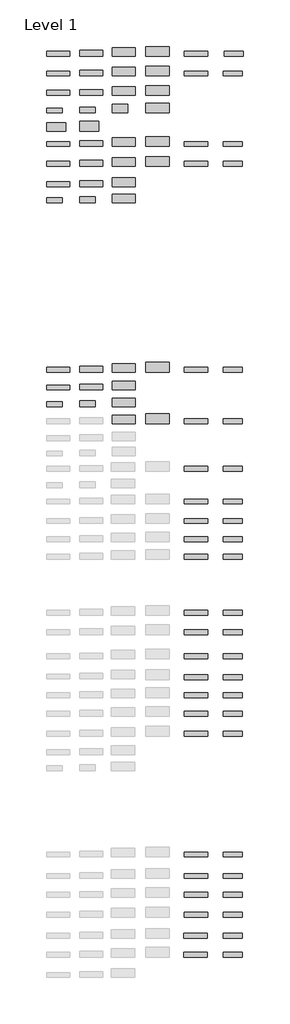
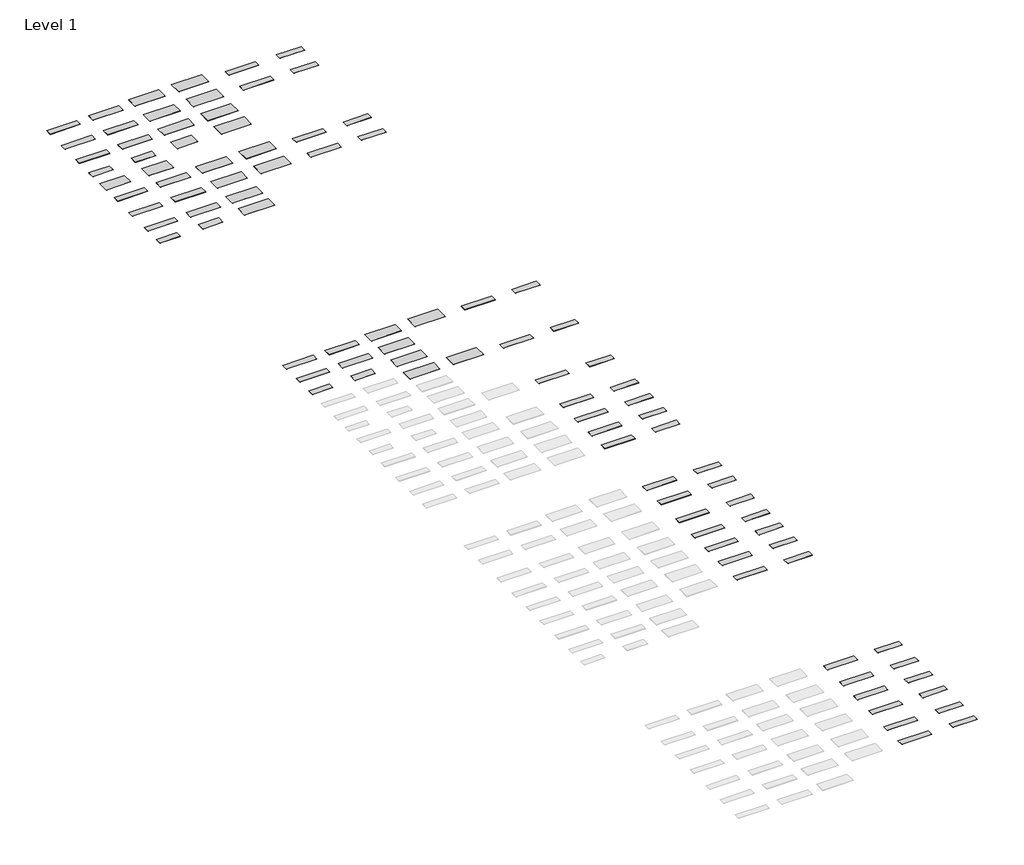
# One storey, part 2 of 2: 92 proxies.
"""IFC4 building model written with IfcOpenShell, lengths in millimetres."""

from ifc_helpers import new_model, si_unit, origin, place, context, project, spatial, transform, mapped, element, save
from components import s001_satin_white_12mm_760x3680mm_7f56e2ab, s001_satin_white_12mm_910x3680mm_ebb0e17e, s001_satin_white_12mm_1350x3680mm_c2ce3097, s001_satin_white_12mm_1520x3680mm_bc4f7f2a, s001_satin_white_20mm_760x3000mm_a6e596b7, s001_satin_white_6mm_760x2490mm_c0a7b58a, s001_satin_white_6mm_910x2490mm_29e5721c, s728_alpine_white_4mm_1350x3000mm_ca04285e, s728_alpine_white_4mm_1520x3000mm_6b61dcad, s728_alpine_white_6mm_1350x2490mm_099efddb

model = new_model("IFC4")

# Units and contexts
model_context = context("Model", 3, world=origin())
ifc_project = project(units=[si_unit("LENGTHUNIT", "METRE", prefix="MILLI")], contexts=[model_context])

# Site, building, storey
site = spatial("IfcSite", under=ifc_project)
building = spatial("IfcBuilding", under=site)
storey = spatial("IfcBuildingStorey", under=building, Name="Level 1", Elevation=0.0)

# Proxies
placement = place(None, origin())
s001_satin_white_12mm_760x3680mm_shape = s001_satin_white_12mm_760x3680mm_7f56e2ab(model_context)
element("IfcBuildingElementProxy", 1, Name="Kitchen_Counter-Tops_Indoor-Material_HI-MACS_Solids : S006_Artic-White_12mm_760x3680mm", ObjectType="Kitchen_Counter-Tops_Indoor-Material_HI-MACS_Solids : S006_Artic-White_12mm_760x3680mm", at=placement, inside=storey, context=model_context, shape_type="MappedRepresentation", body=[
    mapped(s001_satin_white_12mm_760x3680mm_shape, transform((-20811.8590579, -8980.8307829, 0.0), x_axis=(1.0, 0.0, 0.0), y_axis=(0.0, 1.0, 0.0), z_axis=(0.0, 0.0, 1.0))),
])
s001_satin_white_12mm_910x3680mm_shape = s001_satin_white_12mm_910x3680mm_ebb0e17e(model_context)
element("IfcBuildingElementProxy", 2, Name="Kitchen_Counter-Tops_Indoor-Material_HI-MACS_Solids : S006_Artic-White_12mm_910x3680mm", ObjectType="Kitchen_Counter-Tops_Indoor-Material_HI-MACS_Solids : S006_Artic-White_12mm_910x3680mm", at=placement, inside=storey, context=model_context, shape_type="MappedRepresentation", body=[
    mapped(s001_satin_white_12mm_910x3680mm_shape, transform((-15611.8590579, -8905.8307829, 0.0), x_axis=(1.0, 0.0, 0.0), y_axis=(0.0, 1.0, 0.0), z_axis=(0.0, 0.0, 1.0))),
])
s001_satin_white_12mm_1350x3680mm_shape = s001_satin_white_12mm_1350x3680mm_c2ce3097(model_context)
element("IfcBuildingElementProxy", 3, Name="Kitchen_Counter-Tops_Indoor-Material_HI-MACS_Solids : S006_Artic-White_12mm_1350x3680mm", ObjectType="Kitchen_Counter-Tops_Indoor-Material_HI-MACS_Solids : S006_Artic-White_12mm_1350x3680mm", at=placement, inside=storey, context=model_context, shape_type="MappedRepresentation", body=[
    mapped(s001_satin_white_12mm_1350x3680mm_shape, transform((-10511.8590579, -8685.8307829, 0.0), x_axis=(1.0, 0.0, 0.0), y_axis=(0.0, 1.0, 0.0), z_axis=(0.0, 0.0, 1.0))),
])
s001_satin_white_12mm_1520x3680mm_shape = s001_satin_white_12mm_1520x3680mm_bc4f7f2a(model_context)
element("IfcBuildingElementProxy", 4, Name="Kitchen_Counter-Tops_Indoor-Material_HI-MACS_Solids : S006_Artic-White_12mm_1520x3680mm", ObjectType="Kitchen_Counter-Tops_Indoor-Material_HI-MACS_Solids : S006_Artic-White_12mm_1520x3680mm", at=placement, inside=storey, context=model_context, shape_type="MappedRepresentation", body=[
    mapped(s001_satin_white_12mm_1520x3680mm_shape, transform((-5211.8590579, -8600.8307829, 0.0), x_axis=(1.0, 0.0, 0.0), y_axis=(0.0, 1.0, 0.0), z_axis=(0.0, 0.0, 1.0))),
])
element("IfcBuildingElementProxy", 5, Name="Kitchen_Counter-Tops_Indoor-Material_HI-MACS_Solids : S006_Artic-White_20mm_760x3680mm", ObjectType="Kitchen_Counter-Tops_Indoor-Material_HI-MACS_Solids : S006_Artic-White_20mm_760x3680mm", at=placement, inside=storey, context=model_context, shape_type="MappedRepresentation", body=[
    mapped(s001_satin_white_12mm_760x3680mm_shape, transform((868.1409421, -8980.8307829, 0.0), x_axis=(1.0, 0.0, 0.0), y_axis=(0.0, 1.0, 0.0), z_axis=(0.0, 0.0, 1.0))),
])
s001_satin_white_20mm_760x3000mm_shape = s001_satin_white_20mm_760x3000mm_a6e596b7(model_context)
element("IfcBuildingElementProxy", 6, Name="Kitchen_Counter-Tops_Indoor-Material_HI-MACS_Solids : S006_Artic-White_20mm_760x3000mm", ObjectType="Kitchen_Counter-Tops_Indoor-Material_HI-MACS_Solids : S006_Artic-White_20mm_760x3000mm", at=placement, inside=storey, context=model_context, shape_type="MappedRepresentation", body=[
    mapped(s001_satin_white_20mm_760x3000mm_shape, transform((6668.1409421, -8980.8307829, 0.0), x_axis=(1.0, 0.0, 0.0), y_axis=(0.0, 1.0, 0.0), z_axis=(0.0, 0.0, 1.0))),
])
element("IfcBuildingElementProxy", 7, Name="Kitchen_Counter-Tops_Indoor-Material_HI-MACS_Solids : S006_Artic-White_9mm_760x3680mm", ObjectType="Kitchen_Counter-Tops_Indoor-Material_HI-MACS_Solids : S006_Artic-White_9mm_760x3680mm", at=placement, inside=storey, context=model_context, shape_type="MappedRepresentation", body=[
    mapped(s001_satin_white_12mm_760x3680mm_shape, transform((-20811.8590579, -12180.8307829, 0.0), x_axis=(1.0, 0.0, 0.0), y_axis=(0.0, 1.0, 0.0), z_axis=(0.0, 0.0, 1.0))),
])
element("IfcBuildingElementProxy", 8, Name="Kitchen_Counter-Tops_Indoor-Material_HI-MACS_Solids : S006_Artic-White_9mm_910x3680mm", ObjectType="Kitchen_Counter-Tops_Indoor-Material_HI-MACS_Solids : S006_Artic-White_9mm_910x3680mm", at=placement, inside=storey, context=model_context, shape_type="MappedRepresentation", body=[
    mapped(s001_satin_white_12mm_910x3680mm_shape, transform((-15611.8590579, -12105.8307829, 0.0), x_axis=(1.0, 0.0, 0.0), y_axis=(0.0, 1.0, 0.0), z_axis=(0.0, 0.0, 1.0))),
])
element("IfcBuildingElementProxy", 9, Name="Kitchen_Counter-Tops_Indoor-Material_HI-MACS_Solids : S006_Artic-White_9mm_1350x3680mm", ObjectType="Kitchen_Counter-Tops_Indoor-Material_HI-MACS_Solids : S006_Artic-White_9mm_1350x3680mm", at=placement, inside=storey, context=model_context, shape_type="MappedRepresentation", body=[
    mapped(s001_satin_white_12mm_1350x3680mm_shape, transform((-10511.8590579, -11885.8307829, 0.0), x_axis=(1.0, 0.0, 0.0), y_axis=(0.0, 1.0, 0.0), z_axis=(0.0, 0.0, 1.0))),
])
s001_satin_white_6mm_760x2490mm_shape = s001_satin_white_6mm_760x2490mm_c0a7b58a(model_context)
element("IfcBuildingElementProxy", 10, Name="Kitchen_Counter-Tops_Indoor-Material_HI-MACS_Solids : S006_Artic-White_6mm_760x2490mm", ObjectType="Kitchen_Counter-Tops_Indoor-Material_HI-MACS_Solids : S006_Artic-White_6mm_760x2490mm", at=placement, inside=storey, context=model_context, shape_type="MappedRepresentation", body=[
    mapped(s001_satin_white_6mm_760x2490mm_shape, transform((-21406.8590579, -14720.8307829, 0.0), x_axis=(1.0, 0.0, 0.0), y_axis=(0.0, 1.0, 0.0), z_axis=(0.0, 0.0, 1.0))),
])
s001_satin_white_6mm_910x2490mm_shape = s001_satin_white_6mm_910x2490mm_29e5721c(model_context)
element("IfcBuildingElementProxy", 11, Name="Kitchen_Counter-Tops_Indoor-Material_HI-MACS_Solids : S006_Artic-White_6mm_910x2490mm", ObjectType="Kitchen_Counter-Tops_Indoor-Material_HI-MACS_Solids : S006_Artic-White_6mm_910x2490mm", at=placement, inside=storey, context=model_context, shape_type="MappedRepresentation", body=[
    mapped(s001_satin_white_6mm_910x2490mm_shape, transform((-16206.8590579, -14645.8307829, 0.0), x_axis=(1.0, 0.0, 0.0), y_axis=(0.0, 1.0, 0.0), z_axis=(0.0, 0.0, 1.0))),
])
element("IfcBuildingElementProxy", 12, Name="Kitchen_Counter-Tops_Indoor-Material_HI-MACS_Solids : S006_Artic-White_6mm_1350x3680mm", ObjectType="Kitchen_Counter-Tops_Indoor-Material_HI-MACS_Solids : S006_Artic-White_6mm_1350x3680mm", at=placement, inside=storey, context=model_context, shape_type="MappedRepresentation", body=[
    mapped(s001_satin_white_12mm_1350x3680mm_shape, transform((-10511.8590579, -14425.8307829, 0.0), x_axis=(1.0, 0.0, 0.0), y_axis=(0.0, 1.0, 0.0), z_axis=(0.0, 0.0, 1.0))),
])
element("IfcBuildingElementProxy", 13, Name="Kitchen_Counter-Tops_Indoor-Material_HI-MACS_Solids : S102_Babylon-Beige_20mm_760x3680mm", ObjectType="Kitchen_Counter-Tops_Indoor-Material_HI-MACS_Solids : S102_Babylon-Beige_20mm_760x3680mm", at=placement, inside=storey, context=model_context, shape_type="MappedRepresentation", body=[
    mapped(s001_satin_white_12mm_760x3680mm_shape, transform((868.1409421, -68063.8627083, 0.0), x_axis=(1.0, 0.0, 0.0), y_axis=(0.0, 1.0, 0.0), z_axis=(0.0, 0.0, 1.0))),
])
element("IfcBuildingElementProxy", 14, Name="Kitchen_Counter-Tops_Indoor-Material_HI-MACS_Solids : S102_Babylon-Beige_20mm_760x3000mm", ObjectType="Kitchen_Counter-Tops_Indoor-Material_HI-MACS_Solids : S102_Babylon-Beige_20mm_760x3000mm", at=placement, inside=storey, context=model_context, shape_type="MappedRepresentation", body=[
    mapped(s001_satin_white_20mm_760x3000mm_shape, transform((6668.1409421, -68063.8627083, 0.0), x_axis=(1.0, 0.0, 0.0), y_axis=(0.0, 1.0, 0.0), z_axis=(0.0, 0.0, 1.0))),
])
element("IfcBuildingElementProxy", 15, Name="Kitchen_Counter-Tops_Indoor-Material_HI-MACS_Solids : S108_Marta-Grey_20mm_760x3680mm", ObjectType="Kitchen_Counter-Tops_Indoor-Material_HI-MACS_Solids : S108_Marta-Grey_20mm_760x3680mm", at=placement, inside=storey, context=model_context, shape_type="MappedRepresentation", body=[
    mapped(s001_satin_white_12mm_760x3680mm_shape, transform((868.1409421, -79611.6390607, 0.0), x_axis=(1.0, 0.0, 0.0), y_axis=(0.0, 1.0, 0.0), z_axis=(0.0, 0.0, 1.0))),
])
element("IfcBuildingElementProxy", 16, Name="Kitchen_Counter-Tops_Indoor-Material_HI-MACS_Solids : S108_Marta-Grey_20mm_760x3000mm", ObjectType="Kitchen_Counter-Tops_Indoor-Material_HI-MACS_Solids : S108_Marta-Grey_20mm_760x3000mm", at=placement, inside=storey, context=model_context, shape_type="MappedRepresentation", body=[
    mapped(s001_satin_white_20mm_760x3000mm_shape, transform((6668.1409421, -79611.6390607, 0.0), x_axis=(1.0, 0.0, 0.0), y_axis=(0.0, 1.0, 0.0), z_axis=(0.0, 0.0, 1.0))),
])
element("IfcBuildingElementProxy", 17, Name="Kitchen_Counter-Tops_Indoor-Material_HI-MACS_Solids : S025_Fiery-Red_20mm_760x3680mm", ObjectType="Kitchen_Counter-Tops_Indoor-Material_HI-MACS_Solids : S025_Fiery-Red_20mm_760x3680mm", at=placement, inside=storey, context=model_context, shape_type="MappedRepresentation", body=[
    mapped(s001_satin_white_12mm_760x3680mm_shape, transform((868.1409421, -92576.3180558, 0.0), x_axis=(1.0, 0.0, 0.0), y_axis=(0.0, 1.0, 0.0), z_axis=(0.0, 0.0, 1.0))),
])
element("IfcBuildingElementProxy", 18, Name="Kitchen_Counter-Tops_Indoor-Material_HI-MACS_Solids : S025_Fiery-Red_20mm_760x3000mm", ObjectType="Kitchen_Counter-Tops_Indoor-Material_HI-MACS_Solids : S025_Fiery-Red_20mm_760x3000mm", at=placement, inside=storey, context=model_context, shape_type="MappedRepresentation", body=[
    mapped(s001_satin_white_20mm_760x3000mm_shape, transform((6668.1409421, -92576.3180558, 0.0), x_axis=(1.0, 0.0, 0.0), y_axis=(0.0, 1.0, 0.0), z_axis=(0.0, 0.0, 1.0))),
])
element("IfcBuildingElementProxy", 19, Name="Kitchen_Counter-Tops_Indoor-Material_HI-MACS_Solids : S115_Deep-Indigo_20mm_760x3680mm", ObjectType="Kitchen_Counter-Tops_Indoor-Material_HI-MACS_Solids : S115_Deep-Indigo_20mm_760x3680mm", at=placement, inside=storey, context=model_context, shape_type="MappedRepresentation", body=[
    mapped(s001_satin_white_12mm_760x3680mm_shape, transform((868.1409421, -123994.5445632, 0.0), x_axis=(1.0, 0.0, 0.0), y_axis=(0.0, 1.0, 0.0), z_axis=(0.0, 0.0, 1.0))),
])
element("IfcBuildingElementProxy", 20, Name="Kitchen_Counter-Tops_Indoor-Material_HI-MACS_Solids : S115_Deep-Indigo_20mm_760x3000mm", ObjectType="Kitchen_Counter-Tops_Indoor-Material_HI-MACS_Solids : S115_Deep-Indigo_20mm_760x3000mm", at=placement, inside=storey, context=model_context, shape_type="MappedRepresentation", body=[
    mapped(s001_satin_white_20mm_760x3000mm_shape, transform((6668.1409421, -123994.5445632, 0.0), x_axis=(1.0, 0.0, 0.0), y_axis=(0.0, 1.0, 0.0), z_axis=(0.0, 0.0, 1.0))),
])
element("IfcBuildingElementProxy", 21, Name="Kitchen_Counter-Tops_Indoor-Material_HI-MACS_Solids : S001_Satin-White_12mm_1350x3680mm", ObjectType="Kitchen_Counter-Tops_Indoor-Material_HI-MACS_Solids : S001_Satin-White_12mm_1350x3680mm", at=placement, inside=storey, context=model_context, shape_type="MappedRepresentation", body=[
    mapped(s001_satin_white_12mm_1350x3680mm_shape, transform((-10511.8590579, -49177.1888204, 0.0), x_axis=(1.0, 0.0, 0.0), y_axis=(0.0, 1.0, 0.0), z_axis=(0.0, 0.0, 1.0))),
])
element("IfcBuildingElementProxy", 22, Name="Kitchen_Counter-Tops_Indoor-Material_HI-MACS_Solids : S001_Satin-White_12mm_1520x3680mm", ObjectType="Kitchen_Counter-Tops_Indoor-Material_HI-MACS_Solids : S001_Satin-White_12mm_1520x3680mm", at=placement, inside=storey, context=model_context, shape_type="MappedRepresentation", body=[
    mapped(s001_satin_white_12mm_1520x3680mm_shape, transform((-5211.8590579, -49092.1888204, 0.0), x_axis=(1.0, 0.0, 0.0), y_axis=(0.0, 1.0, 0.0), z_axis=(0.0, 0.0, 1.0))),
])
element("IfcBuildingElementProxy", 23, Name="Kitchen_Counter-Tops_Indoor-Material_HI-MACS_Solids : S001_Satin-White_20mm_760x3000mm", ObjectType="Kitchen_Counter-Tops_Indoor-Material_HI-MACS_Solids : S001_Satin-White_20mm_760x3000mm", at=placement, inside=storey, context=model_context, shape_type="MappedRepresentation", body=[
    mapped(s001_satin_white_20mm_760x3000mm_shape, transform((6668.1409421, -49472.1888204, 0.0), x_axis=(1.0, 0.0, 0.0), y_axis=(0.0, 1.0, 0.0), z_axis=(0.0, 0.0, 1.0))),
])
element("IfcBuildingElementProxy", 24, Name="Kitchen_Counter-Tops_Indoor-Material_HI-MACS_Solids : S001_Satin-White_20mm_760x3680mm", ObjectType="Kitchen_Counter-Tops_Indoor-Material_HI-MACS_Solids : S001_Satin-White_20mm_760x3680mm", at=placement, inside=storey, context=model_context, shape_type="MappedRepresentation", body=[
    mapped(s001_satin_white_12mm_760x3680mm_shape, transform((868.1409421, -49472.1888204, 0.0), x_axis=(1.0, 0.0, 0.0), y_axis=(0.0, 1.0, 0.0), z_axis=(0.0, 0.0, 1.0))),
])
element("IfcBuildingElementProxy", 25, Name="Kitchen_Counter-Tops_Indoor-Material_HI-MACS_Solids : S002_Almond_20mm_760x3000mm", ObjectType="Kitchen_Counter-Tops_Indoor-Material_HI-MACS_Solids : S002_Almond_20mm_760x3000mm", at=placement, inside=storey, context=model_context, shape_type="MappedRepresentation", body=[
    mapped(s001_satin_white_20mm_760x3000mm_shape, transform((6668.1409421, -65172.1888204, 0.0), x_axis=(1.0, 0.0, 0.0), y_axis=(0.0, 1.0, 0.0), z_axis=(0.0, 0.0, 1.0))),
])
element("IfcBuildingElementProxy", 26, Name="Kitchen_Counter-Tops_Indoor-Material_HI-MACS_Solids : S002_Almond_20mm_760x3680mm", ObjectType="Kitchen_Counter-Tops_Indoor-Material_HI-MACS_Solids : S002_Almond_20mm_760x3680mm", at=placement, inside=storey, context=model_context, shape_type="MappedRepresentation", body=[
    mapped(s001_satin_white_12mm_760x3680mm_shape, transform((868.1409421, -65172.1888204, 0.0), x_axis=(1.0, 0.0, 0.0), y_axis=(0.0, 1.0, 0.0), z_axis=(0.0, 0.0, 1.0))),
])
element("IfcBuildingElementProxy", 27, Name="Kitchen_Counter-Tops_Indoor-Material_HI-MACS_Solids : S005_Grey_20mm_760x3000mm", ObjectType="Kitchen_Counter-Tops_Indoor-Material_HI-MACS_Solids : S005_Grey_20mm_760x3000mm", at=placement, inside=storey, context=model_context, shape_type="MappedRepresentation", body=[
    mapped(s001_satin_white_20mm_760x3000mm_shape, transform((6668.1409421, -98637.3328205, 0.0), x_axis=(1.0, 0.0, 0.0), y_axis=(0.0, 1.0, 0.0), z_axis=(0.0, 0.0, 1.0))),
])
element("IfcBuildingElementProxy", 28, Name="Kitchen_Counter-Tops_Indoor-Material_HI-MACS_Solids : S005_Grey_20mm_760x3680mm", ObjectType="Kitchen_Counter-Tops_Indoor-Material_HI-MACS_Solids : S005_Grey_20mm_760x3680mm", at=placement, inside=storey, context=model_context, shape_type="MappedRepresentation", body=[
    mapped(s001_satin_white_12mm_760x3680mm_shape, transform((868.1409421, -98637.3328205, 0.0), x_axis=(1.0, 0.0, 0.0), y_axis=(0.0, 1.0, 0.0), z_axis=(0.0, 0.0, 1.0))),
])
element("IfcBuildingElementProxy", 29, Name="Kitchen_Counter-Tops_Indoor-Material_HI-MACS_Solids : S009_Cream_20mm_760x3000mm", ObjectType="Kitchen_Counter-Tops_Indoor-Material_HI-MACS_Solids : S009_Cream_20mm_760x3000mm", at=placement, inside=storey, context=model_context, shape_type="MappedRepresentation", body=[
    mapped(s001_satin_white_20mm_760x3000mm_shape, transform((6668.1409421, -56979.5477152, 0.0), x_axis=(1.0, 0.0, 0.0), y_axis=(0.0, 1.0, 0.0), z_axis=(0.0, 0.0, 1.0))),
])
element("IfcBuildingElementProxy", 30, Name="Kitchen_Counter-Tops_Indoor-Material_HI-MACS_Solids : S009_Cream_20mm_760x3680mm", ObjectType="Kitchen_Counter-Tops_Indoor-Material_HI-MACS_Solids : S009_Cream_20mm_760x3680mm", at=placement, inside=storey, context=model_context, shape_type="MappedRepresentation", body=[
    mapped(s001_satin_white_12mm_760x3680mm_shape, transform((868.1409421, -56979.5477152, 0.0), x_axis=(1.0, 0.0, 0.0), y_axis=(0.0, 1.0, 0.0), z_axis=(0.0, 0.0, 1.0))),
])
element("IfcBuildingElementProxy", 31, Name="Kitchen_Counter-Tops_Indoor-Material_HI-MACS_Solids : S022_Black_20mm_760x3000mm", ObjectType="Kitchen_Counter-Tops_Indoor-Material_HI-MACS_Solids : S022_Black_20mm_760x3000mm", at=placement, inside=storey, context=model_context, shape_type="MappedRepresentation", body=[
    mapped(s001_satin_white_20mm_760x3000mm_shape, transform((6668.1409421, -133406.0645662, 0.0), x_axis=(1.0, 0.0, 0.0), y_axis=(0.0, 1.0, 0.0), z_axis=(0.0, 0.0, 1.0))),
])
element("IfcBuildingElementProxy", 32, Name="Kitchen_Counter-Tops_Indoor-Material_HI-MACS_Solids : S022_Black_20mm_760x3680mm", ObjectType="Kitchen_Counter-Tops_Indoor-Material_HI-MACS_Solids : S022_Black_20mm_760x3680mm", at=placement, inside=storey, context=model_context, shape_type="MappedRepresentation", body=[
    mapped(s001_satin_white_12mm_760x3680mm_shape, transform((788.1409421, -133406.0645662, 0.0), x_axis=(1.0, 0.0, 0.0), y_axis=(0.0, 1.0, 0.0), z_axis=(0.0, 0.0, 1.0))),
])
element("IfcBuildingElementProxy", 33, Name="Kitchen_Counter-Tops_Indoor-Material_HI-MACS_Solids : S026_Banana_20mm_760x3000mm", ObjectType="Kitchen_Counter-Tops_Indoor-Material_HI-MACS_Solids : S026_Banana_20mm_760x3000mm", at=placement, inside=storey, context=model_context, shape_type="MappedRepresentation", body=[
    mapped(s001_satin_white_20mm_760x3000mm_shape, transform((6668.1409421, -86478.1812251, 0.0), x_axis=(1.0, 0.0, 0.0), y_axis=(0.0, 1.0, 0.0), z_axis=(0.0, 0.0, 1.0))),
])
element("IfcBuildingElementProxy", 34, Name="Kitchen_Counter-Tops_Indoor-Material_HI-MACS_Solids : S026_Banana_20mm_760x3680mm", ObjectType="Kitchen_Counter-Tops_Indoor-Material_HI-MACS_Solids : S026_Banana_20mm_760x3680mm", at=placement, inside=storey, context=model_context, shape_type="MappedRepresentation", body=[
    mapped(s001_satin_white_12mm_760x3680mm_shape, transform((868.1409421, -86478.1812251, 0.0), x_axis=(1.0, 0.0, 0.0), y_axis=(0.0, 1.0, 0.0), z_axis=(0.0, 0.0, 1.0))),
])
element("IfcBuildingElementProxy", 35, Name="Kitchen_Counter-Tops_Indoor-Material_HI-MACS_Solids : S027_Orange_20mm_760x3000mm", ObjectType="Kitchen_Counter-Tops_Indoor-Material_HI-MACS_Solids : S027_Orange_20mm_760x3000mm", at=placement, inside=storey, context=model_context, shape_type="MappedRepresentation", body=[
    mapped(s001_satin_white_20mm_760x3000mm_shape, transform((6668.1409421, -89736.9760659, 0.0), x_axis=(1.0, 0.0, 0.0), y_axis=(0.0, 1.0, 0.0), z_axis=(0.0, 0.0, 1.0))),
])
element("IfcBuildingElementProxy", 36, Name="Kitchen_Counter-Tops_Indoor-Material_HI-MACS_Solids : S027_Orange_20mm_760x3680mm", ObjectType="Kitchen_Counter-Tops_Indoor-Material_HI-MACS_Solids : S027_Orange_20mm_760x3680mm", at=placement, inside=storey, context=model_context, shape_type="MappedRepresentation", body=[
    mapped(s001_satin_white_12mm_760x3680mm_shape, transform((868.1409421, -89736.9760659, 0.0), x_axis=(1.0, 0.0, 0.0), y_axis=(0.0, 1.0, 0.0), z_axis=(0.0, 0.0, 1.0))),
])
element("IfcBuildingElementProxy", 37, Name="Kitchen_Counter-Tops_Indoor-Material_HI-MACS_Solids : S029_Ivory-White_12mm_1350x3680mm", ObjectType="Kitchen_Counter-Tops_Indoor-Material_HI-MACS_Solids : S029_Ivory-White_12mm_1350x3680mm", at=placement, inside=storey, context=model_context, shape_type="MappedRepresentation", body=[
    mapped(s001_satin_white_12mm_1350x3680mm_shape, transform((-10511.8590579, -41081.1039936, 0.0), x_axis=(1.0, 0.0, 0.0), y_axis=(0.0, 1.0, 0.0), z_axis=(0.0, 0.0, 1.0))),
])
element("IfcBuildingElementProxy", 38, Name="Kitchen_Counter-Tops_Indoor-Material_HI-MACS_Solids : S029_Ivory-White_12mm_1520x3680mm", ObjectType="Kitchen_Counter-Tops_Indoor-Material_HI-MACS_Solids : S029_Ivory-White_12mm_1520x3680mm", at=placement, inside=storey, context=model_context, shape_type="MappedRepresentation", body=[
    mapped(s001_satin_white_12mm_1520x3680mm_shape, transform((-5211.8590579, -40996.1039936, 0.0), x_axis=(1.0, 0.0, 0.0), y_axis=(0.0, 1.0, 0.0), z_axis=(0.0, 0.0, 1.0))),
])
element("IfcBuildingElementProxy", 39, Name="Kitchen_Counter-Tops_Indoor-Material_HI-MACS_Solids : S029_Ivory-White_12mm_760x3680mm", ObjectType="Kitchen_Counter-Tops_Indoor-Material_HI-MACS_Solids : S029_Ivory-White_12mm_760x3680mm", at=placement, inside=storey, context=model_context, shape_type="MappedRepresentation", body=[
    mapped(s001_satin_white_12mm_760x3680mm_shape, transform((-20811.8590579, -41376.1039936, 0.0), x_axis=(1.0, 0.0, 0.0), y_axis=(0.0, 1.0, 0.0), z_axis=(0.0, 0.0, 1.0))),
])
element("IfcBuildingElementProxy", 40, Name="Kitchen_Counter-Tops_Indoor-Material_HI-MACS_Solids : S029_Ivory-White_12mm_910x3680mm", ObjectType="Kitchen_Counter-Tops_Indoor-Material_HI-MACS_Solids : S029_Ivory-White_12mm_910x3680mm", at=placement, inside=storey, context=model_context, shape_type="MappedRepresentation", body=[
    mapped(s001_satin_white_12mm_910x3680mm_shape, transform((-15611.8590579, -41301.1039936, 0.0), x_axis=(1.0, 0.0, 0.0), y_axis=(0.0, 1.0, 0.0), z_axis=(0.0, 0.0, 1.0))),
])
element("IfcBuildingElementProxy", 41, Name="Kitchen_Counter-Tops_Indoor-Material_HI-MACS_Solids : S029_Ivory-White_20mm_760x3000mm", ObjectType="Kitchen_Counter-Tops_Indoor-Material_HI-MACS_Solids : S029_Ivory-White_20mm_760x3000mm", at=placement, inside=storey, context=model_context, shape_type="MappedRepresentation", body=[
    mapped(s001_satin_white_20mm_760x3000mm_shape, transform((6668.1409421, -41376.1039936, 0.0), x_axis=(1.0, 0.0, 0.0), y_axis=(0.0, 1.0, 0.0), z_axis=(0.0, 0.0, 1.0))),
])
element("IfcBuildingElementProxy", 42, Name="Kitchen_Counter-Tops_Indoor-Material_HI-MACS_Solids : S029_Ivory-White_20mm_760x3680mm", ObjectType="Kitchen_Counter-Tops_Indoor-Material_HI-MACS_Solids : S029_Ivory-White_20mm_760x3680mm", at=placement, inside=storey, context=model_context, shape_type="MappedRepresentation", body=[
    mapped(s001_satin_white_12mm_760x3680mm_shape, transform((868.1409421, -41376.1039936, 0.0), x_axis=(1.0, 0.0, 0.0), y_axis=(0.0, 1.0, 0.0), z_axis=(0.0, 0.0, 1.0))),
])
element("IfcBuildingElementProxy", 43, Name="Kitchen_Counter-Tops_Indoor-Material_HI-MACS_Solids : S029_Ivory-White_6mm_1350x3680mm", ObjectType="Kitchen_Counter-Tops_Indoor-Material_HI-MACS_Solids : S029_Ivory-White_6mm_1350x3680mm", at=placement, inside=storey, context=model_context, shape_type="MappedRepresentation", body=[
    mapped(s001_satin_white_12mm_1350x3680mm_shape, transform((-10511.8590579, -46501.1039936, 0.0), x_axis=(1.0, 0.0, 0.0), y_axis=(0.0, 1.0, 0.0), z_axis=(0.0, 0.0, 1.0))),
])
element("IfcBuildingElementProxy", 44, Name="Kitchen_Counter-Tops_Indoor-Material_HI-MACS_Solids : S029_Ivory-White_6mm_760x2490mm", ObjectType="Kitchen_Counter-Tops_Indoor-Material_HI-MACS_Solids : S029_Ivory-White_6mm_760x2490mm", at=placement, inside=storey, context=model_context, shape_type="MappedRepresentation", body=[
    mapped(s001_satin_white_6mm_760x2490mm_shape, transform((-21406.8590579, -46796.1039936, 0.0), x_axis=(1.0, 0.0, 0.0), y_axis=(0.0, 1.0, 0.0), z_axis=(0.0, 0.0, 1.0))),
])
element("IfcBuildingElementProxy", 45, Name="Kitchen_Counter-Tops_Indoor-Material_HI-MACS_Solids : S029_Ivory-White_6mm_910x2490mm", ObjectType="Kitchen_Counter-Tops_Indoor-Material_HI-MACS_Solids : S029_Ivory-White_6mm_910x2490mm", at=placement, inside=storey, context=model_context, shape_type="MappedRepresentation", body=[
    mapped(s001_satin_white_6mm_910x2490mm_shape, transform((-16206.8590579, -46721.1039936, 0.0), x_axis=(1.0, 0.0, 0.0), y_axis=(0.0, 1.0, 0.0), z_axis=(0.0, 0.0, 1.0))),
])
element("IfcBuildingElementProxy", 46, Name="Kitchen_Counter-Tops_Indoor-Material_HI-MACS_Solids : S029_Ivory-White_9mm_1350x3680mm", ObjectType="Kitchen_Counter-Tops_Indoor-Material_HI-MACS_Solids : S029_Ivory-White_9mm_1350x3680mm", at=placement, inside=storey, context=model_context, shape_type="MappedRepresentation", body=[
    mapped(s001_satin_white_12mm_1350x3680mm_shape, transform((-10511.8590579, -43881.1039936, 0.0), x_axis=(1.0, 0.0, 0.0), y_axis=(0.0, 1.0, 0.0), z_axis=(0.0, 0.0, 1.0))),
])
element("IfcBuildingElementProxy", 47, Name="Kitchen_Counter-Tops_Indoor-Material_HI-MACS_Solids : S029_Ivory-White_9mm_760x3680mm", ObjectType="Kitchen_Counter-Tops_Indoor-Material_HI-MACS_Solids : S029_Ivory-White_9mm_760x3680mm", at=placement, inside=storey, context=model_context, shape_type="MappedRepresentation", body=[
    mapped(s001_satin_white_12mm_760x3680mm_shape, transform((-20811.8590579, -44176.1039936, 0.0), x_axis=(1.0, 0.0, 0.0), y_axis=(0.0, 1.0, 0.0), z_axis=(0.0, 0.0, 1.0))),
])
element("IfcBuildingElementProxy", 48, Name="Kitchen_Counter-Tops_Indoor-Material_HI-MACS_Solids : S029_Ivory-White_9mm_910x3680mm", ObjectType="Kitchen_Counter-Tops_Indoor-Material_HI-MACS_Solids : S029_Ivory-White_9mm_910x3680mm", at=placement, inside=storey, context=model_context, shape_type="MappedRepresentation", body=[
    mapped(s001_satin_white_12mm_910x3680mm_shape, transform((-15611.8590579, -44101.1039936, 0.0), x_axis=(1.0, 0.0, 0.0), y_axis=(0.0, 1.0, 0.0), z_axis=(0.0, 0.0, 1.0))),
])
element("IfcBuildingElementProxy", 49, Name="Kitchen_Counter-Tops_Indoor-Material_HI-MACS_Solids : S034_Diamond-White_12mm_1350x3680mm", ObjectType="Kitchen_Counter-Tops_Indoor-Material_HI-MACS_Solids : S034_Diamond-White_12mm_1350x3680mm", at=placement, inside=storey, context=model_context, shape_type="MappedRepresentation", body=[
    mapped(s001_satin_white_12mm_1350x3680mm_shape, transform((-10511.8590579, -5571.0520875, 0.0), x_axis=(1.0, 0.0, 0.0), y_axis=(0.0, 1.0, 0.0), z_axis=(0.0, 0.0, 1.0))),
])
element("IfcBuildingElementProxy", 50, Name="Kitchen_Counter-Tops_Indoor-Material_HI-MACS_Solids : S034_Diamond-White_12mm_1520x3680mm", ObjectType="Kitchen_Counter-Tops_Indoor-Material_HI-MACS_Solids : S034_Diamond-White_12mm_1520x3680mm", at=placement, inside=storey, context=model_context, shape_type="MappedRepresentation", body=[
    mapped(s001_satin_white_12mm_1520x3680mm_shape, transform((-5211.8590579, -5486.0520875, 0.0), x_axis=(1.0, 0.0, 0.0), y_axis=(0.0, 1.0, 0.0), z_axis=(0.0, 0.0, 1.0))),
])
element("IfcBuildingElementProxy", 51, Name="Kitchen_Counter-Tops_Indoor-Material_HI-MACS_Solids : S034_Diamond-White_12mm_760x3680mm", ObjectType="Kitchen_Counter-Tops_Indoor-Material_HI-MACS_Solids : S034_Diamond-White_12mm_760x3680mm", at=placement, inside=storey, context=model_context, shape_type="MappedRepresentation", body=[
    mapped(s001_satin_white_12mm_760x3680mm_shape, transform((-20811.8590579, -5866.0520875, 0.0), x_axis=(1.0, 0.0, 0.0), y_axis=(0.0, 1.0, 0.0), z_axis=(0.0, 0.0, 1.0))),
])
element("IfcBuildingElementProxy", 52, Name="Kitchen_Counter-Tops_Indoor-Material_HI-MACS_Solids : S034_Diamond-White_12mm_910x3680mm", ObjectType="Kitchen_Counter-Tops_Indoor-Material_HI-MACS_Solids : S034_Diamond-White_12mm_910x3680mm", at=placement, inside=storey, context=model_context, shape_type="MappedRepresentation", body=[
    mapped(s001_satin_white_12mm_910x3680mm_shape, transform((-15611.8590579, -5791.0520875, 0.0), x_axis=(1.0, 0.0, 0.0), y_axis=(0.0, 1.0, 0.0), z_axis=(0.0, 0.0, 1.0))),
])
element("IfcBuildingElementProxy", 53, Name="Kitchen_Counter-Tops_Indoor-Material_HI-MACS_Solids : S034_Diamond-White_20mm_760x3000mm", ObjectType="Kitchen_Counter-Tops_Indoor-Material_HI-MACS_Solids : S034_Diamond-White_20mm_760x3000mm", at=placement, inside=storey, context=model_context, shape_type="MappedRepresentation", body=[
    mapped(s001_satin_white_20mm_760x3000mm_shape, transform((6668.1409421, -5866.0520875, 0.0), x_axis=(1.0, 0.0, 0.0), y_axis=(0.0, 1.0, 0.0), z_axis=(0.0, 0.0, 1.0))),
])
element("IfcBuildingElementProxy", 54, Name="Kitchen_Counter-Tops_Indoor-Material_HI-MACS_Solids : S034_Diamond-White_20mm_760x3680mm", ObjectType="Kitchen_Counter-Tops_Indoor-Material_HI-MACS_Solids : S034_Diamond-White_20mm_760x3680mm", at=placement, inside=storey, context=model_context, shape_type="MappedRepresentation", body=[
    mapped(s001_satin_white_12mm_760x3680mm_shape, transform((868.1409421, -5866.0520875, 0.0), x_axis=(1.0, 0.0, 0.0), y_axis=(0.0, 1.0, 0.0), z_axis=(0.0, 0.0, 1.0))),
])
element("IfcBuildingElementProxy", 55, Name="Kitchen_Counter-Tops_Indoor-Material_HI-MACS_Solids : S100_Coffee-Brown_20mm_760x3000mm", ObjectType="Kitchen_Counter-Tops_Indoor-Material_HI-MACS_Solids : S100_Coffee-Brown_20mm_760x3000mm", at=placement, inside=storey, context=model_context, shape_type="MappedRepresentation", body=[
    mapped(s001_satin_white_20mm_760x3000mm_shape, transform((6668.1409421, -130438.3976089, 0.0), x_axis=(1.0, 0.0, 0.0), y_axis=(0.0, 1.0, 0.0), z_axis=(0.0, 0.0, 1.0))),
])
element("IfcBuildingElementProxy", 56, Name="Kitchen_Counter-Tops_Indoor-Material_HI-MACS_Solids : S100_Coffee-Brown_20mm_760x3680mm", ObjectType="Kitchen_Counter-Tops_Indoor-Material_HI-MACS_Solids : S100_Coffee-Brown_20mm_760x3680mm", at=placement, inside=storey, context=model_context, shape_type="MappedRepresentation", body=[
    mapped(s001_satin_white_12mm_760x3680mm_shape, transform((788.1409421, -130438.3976089, 0.0), x_axis=(1.0, 0.0, 0.0), y_axis=(0.0, 1.0, 0.0), z_axis=(0.0, 0.0, 1.0))),
])
element("IfcBuildingElementProxy", 57, Name="Kitchen_Counter-Tops_Indoor-Material_HI-MACS_Solids : S103_Concrete-Grey_20mm_760x3000mm", ObjectType="Kitchen_Counter-Tops_Indoor-Material_HI-MACS_Solids : S103_Concrete-Grey_20mm_760x3000mm", at=placement, inside=storey, context=model_context, shape_type="MappedRepresentation", body=[
    mapped(s001_satin_white_20mm_760x3000mm_shape, transform((6668.1409421, -70807.5925932, 0.0), x_axis=(1.0, 0.0, 0.0), y_axis=(0.0, 1.0, 0.0), z_axis=(0.0, 0.0, 1.0))),
])
element("IfcBuildingElementProxy", 58, Name="Kitchen_Counter-Tops_Indoor-Material_HI-MACS_Solids : S103_Concrete-Grey_20mm_760x3680mm", ObjectType="Kitchen_Counter-Tops_Indoor-Material_HI-MACS_Solids : S103_Concrete-Grey_20mm_760x3680mm", at=placement, inside=storey, context=model_context, shape_type="MappedRepresentation", body=[
    mapped(s001_satin_white_12mm_760x3680mm_shape, transform((868.1409421, -70807.5925932, 0.0), x_axis=(1.0, 0.0, 0.0), y_axis=(0.0, 1.0, 0.0), z_axis=(0.0, 0.0, 1.0))),
])
element("IfcBuildingElementProxy", 59, Name="Kitchen_Counter-Tops_Indoor-Material_HI-MACS_Solids : S109_Steel-Grey_20mm_760x3000mm", ObjectType="Kitchen_Counter-Tops_Indoor-Material_HI-MACS_Solids : S109_Steel-Grey_20mm_760x3000mm", at=placement, inside=storey, context=model_context, shape_type="MappedRepresentation", body=[
    mapped(s001_satin_white_20mm_760x3000mm_shape, transform((6668.1409421, -95500.6600457, 0.0), x_axis=(1.0, 0.0, 0.0), y_axis=(0.0, 1.0, 0.0), z_axis=(0.0, 0.0, 1.0))),
])
element("IfcBuildingElementProxy", 60, Name="Kitchen_Counter-Tops_Indoor-Material_HI-MACS_Solids : S109_Steel-Grey_20mm_760x3680mm", ObjectType="Kitchen_Counter-Tops_Indoor-Material_HI-MACS_Solids : S109_Steel-Grey_20mm_760x3680mm", at=placement, inside=storey, context=model_context, shape_type="MappedRepresentation", body=[
    mapped(s001_satin_white_12mm_760x3680mm_shape, transform((868.1409421, -95500.6600457, 0.0), x_axis=(1.0, 0.0, 0.0), y_axis=(0.0, 1.0, 0.0), z_axis=(0.0, 0.0, 1.0))),
])
element("IfcBuildingElementProxy", 61, Name="Kitchen_Counter-Tops_Indoor-Material_HI-MACS_Solids : S111_Dark-Night_20mm_760x3000mm", ObjectType="Kitchen_Counter-Tops_Indoor-Material_HI-MACS_Solids : S111_Dark-Night_20mm_760x3000mm", at=placement, inside=storey, context=model_context, shape_type="MappedRepresentation", body=[
    mapped(s001_satin_white_20mm_760x3000mm_shape, transform((6668.1409421, -127100.9567316, 0.0), x_axis=(1.0, 0.0, 0.0), y_axis=(0.0, 1.0, 0.0), z_axis=(0.0, 0.0, 1.0))),
])
element("IfcBuildingElementProxy", 62, Name="Kitchen_Counter-Tops_Indoor-Material_HI-MACS_Solids : S111_Dark-Night_20mm_760x3680mm", ObjectType="Kitchen_Counter-Tops_Indoor-Material_HI-MACS_Solids : S111_Dark-Night_20mm_760x3680mm", at=placement, inside=storey, context=model_context, shape_type="MappedRepresentation", body=[
    mapped(s001_satin_white_12mm_760x3680mm_shape, transform((868.1409421, -127100.9567316, 0.0), x_axis=(1.0, 0.0, 0.0), y_axis=(0.0, 1.0, 0.0), z_axis=(0.0, 0.0, 1.0))),
])
element("IfcBuildingElementProxy", 63, Name="Kitchen_Counter-Tops_Indoor-Material_HI-MACS_Solids : S117_Midnight-Grey_20mm_760x3000mm", ObjectType="Kitchen_Counter-Tops_Indoor-Material_HI-MACS_Solids : S117_Midnight-Grey_20mm_760x3000mm", at=placement, inside=storey, context=model_context, shape_type="MappedRepresentation", body=[
    mapped(s001_satin_white_20mm_760x3000mm_shape, transform((6668.1409421, -117630.6880003, 0.0), x_axis=(1.0, 0.0, 0.0), y_axis=(0.0, 1.0, 0.0), z_axis=(0.0, 0.0, 1.0))),
])
element("IfcBuildingElementProxy", 64, Name="Kitchen_Counter-Tops_Indoor-Material_HI-MACS_Solids : S117_Midnight-Grey_20mm_760x3680mm", ObjectType="Kitchen_Counter-Tops_Indoor-Material_HI-MACS_Solids : S117_Midnight-Grey_20mm_760x3680mm", at=placement, inside=storey, context=model_context, shape_type="MappedRepresentation", body=[
    mapped(s001_satin_white_12mm_760x3680mm_shape, transform((868.1409421, -117630.6880003, 0.0), x_axis=(1.0, 0.0, 0.0), y_axis=(0.0, 1.0, 0.0), z_axis=(0.0, 0.0, 1.0))),
])
element("IfcBuildingElementProxy", 65, Name="Kitchen_Counter-Tops_Indoor-Material_HI-MACS_Solids : S121_Suede_12mm_1350x3680mm", ObjectType="Kitchen_Counter-Tops_Indoor-Material_HI-MACS_Solids : S121_Suede_12mm_1350x3680mm", at=placement, inside=storey, context=model_context, shape_type="MappedRepresentation", body=[
    mapped(s001_satin_white_12mm_1350x3680mm_shape, transform((-10511.8590579, 8622.8111796, 0.0), x_axis=(1.0, 0.0, 0.0), y_axis=(0.0, 1.0, 0.0), z_axis=(0.0, 0.0, 1.0))),
])
element("IfcBuildingElementProxy", 66, Name="Kitchen_Counter-Tops_Indoor-Material_HI-MACS_Solids : S121_Suede_12mm_1520x3680mm", ObjectType="Kitchen_Counter-Tops_Indoor-Material_HI-MACS_Solids : S121_Suede_12mm_1520x3680mm", at=placement, inside=storey, context=model_context, shape_type="MappedRepresentation", body=[
    mapped(s001_satin_white_12mm_1520x3680mm_shape, transform((-5211.8590579, 8707.8111796, 0.0), x_axis=(1.0, 0.0, 0.0), y_axis=(0.0, 1.0, 0.0), z_axis=(0.0, 0.0, 1.0))),
])
element("IfcBuildingElementProxy", 67, Name="Kitchen_Counter-Tops_Indoor-Material_HI-MACS_Solids : S121_Suede_12mm_760x3680mm", ObjectType="Kitchen_Counter-Tops_Indoor-Material_HI-MACS_Solids : S121_Suede_12mm_760x3680mm", at=placement, inside=storey, context=model_context, shape_type="MappedRepresentation", body=[
    mapped(s001_satin_white_12mm_760x3680mm_shape, transform((-20811.8590579, 8327.8111796, 0.0), x_axis=(1.0, 0.0, 0.0), y_axis=(0.0, 1.0, 0.0), z_axis=(0.0, 0.0, 1.0))),
])
element("IfcBuildingElementProxy", 68, Name="Kitchen_Counter-Tops_Indoor-Material_HI-MACS_Solids : S121_Suede_12mm_910x3680mm", ObjectType="Kitchen_Counter-Tops_Indoor-Material_HI-MACS_Solids : S121_Suede_12mm_910x3680mm", at=placement, inside=storey, context=model_context, shape_type="MappedRepresentation", body=[
    mapped(s001_satin_white_12mm_910x3680mm_shape, transform((-15611.8590579, 8402.8111796, 0.0), x_axis=(1.0, 0.0, 0.0), y_axis=(0.0, 1.0, 0.0), z_axis=(0.0, 0.0, 1.0))),
])
element("IfcBuildingElementProxy", 69, Name="Kitchen_Counter-Tops_Indoor-Material_HI-MACS_Solids : S121_Suede_20mm_760x3000mm", ObjectType="Kitchen_Counter-Tops_Indoor-Material_HI-MACS_Solids : S121_Suede_20mm_760x3000mm", at=placement, inside=storey, context=model_context, shape_type="MappedRepresentation", body=[
    mapped(s001_satin_white_20mm_760x3000mm_shape, transform((6768.1409421, 8327.8111796, 0.0), x_axis=(1.0, 0.0, 0.0), y_axis=(0.0, 1.0, 0.0), z_axis=(0.0, 0.0, 1.0))),
])
element("IfcBuildingElementProxy", 70, Name="Kitchen_Counter-Tops_Indoor-Material_HI-MACS_Solids : S121_Suede_20mm_760x3680mm", ObjectType="Kitchen_Counter-Tops_Indoor-Material_HI-MACS_Solids : S121_Suede_20mm_760x3680mm", at=placement, inside=storey, context=model_context, shape_type="MappedRepresentation", body=[
    mapped(s001_satin_white_12mm_760x3680mm_shape, transform((868.1409421, 8327.8111796, 0.0), x_axis=(1.0, 0.0, 0.0), y_axis=(0.0, 1.0, 0.0), z_axis=(0.0, 0.0, 1.0))),
])
element("IfcBuildingElementProxy", 71, Name="Kitchen_Counter-Tops_Indoor-Material_HI-MACS_Solids : S201_Nougat-Cream_20mm_760x3000mm", ObjectType="Kitchen_Counter-Tops_Indoor-Material_HI-MACS_Solids : S201_Nougat-Cream_20mm_760x3000mm", at=placement, inside=storey, context=model_context, shape_type="MappedRepresentation", body=[
    mapped(s001_satin_white_20mm_760x3000mm_shape, transform((6668.1409421, -62104.4438173, 0.0), x_axis=(1.0, 0.0, 0.0), y_axis=(0.0, 1.0, 0.0), z_axis=(0.0, 0.0, 1.0))),
])
element("IfcBuildingElementProxy", 72, Name="Kitchen_Counter-Tops_Indoor-Material_HI-MACS_Solids : S201_Nougat-Cream_20mm_760x3680mm", ObjectType="Kitchen_Counter-Tops_Indoor-Material_HI-MACS_Solids : S201_Nougat-Cream_20mm_760x3680mm", at=placement, inside=storey, context=model_context, shape_type="MappedRepresentation", body=[
    mapped(s001_satin_white_12mm_760x3680mm_shape, transform((868.1409421, -62104.4438173, 0.0), x_axis=(1.0, 0.0, 0.0), y_axis=(0.0, 1.0, 0.0), z_axis=(0.0, 0.0, 1.0))),
])
element("IfcBuildingElementProxy", 73, Name="Kitchen_Counter-Tops_Indoor-Material_HI-MACS_Solids : S203_Sky-Blue_20mm_760x3000mm", ObjectType="Kitchen_Counter-Tops_Indoor-Material_HI-MACS_Solids : S203_Sky-Blue_20mm_760x3000mm", at=placement, inside=storey, context=model_context, shape_type="MappedRepresentation", body=[
    mapped(s001_satin_white_20mm_760x3000mm_shape, transform((6668.1409421, -121021.6306624, 0.0), x_axis=(1.0, 0.0, 0.0), y_axis=(0.0, 1.0, 0.0), z_axis=(0.0, 0.0, 1.0))),
])
element("IfcBuildingElementProxy", 74, Name="Kitchen_Counter-Tops_Indoor-Material_HI-MACS_Solids : S203_Sky-Blue_20mm_760x3680mm", ObjectType="Kitchen_Counter-Tops_Indoor-Material_HI-MACS_Solids : S203_Sky-Blue_20mm_760x3680mm", at=placement, inside=storey, context=model_context, shape_type="MappedRepresentation", body=[
    mapped(s001_satin_white_12mm_760x3680mm_shape, transform((868.1409421, -121021.6306624, 0.0), x_axis=(1.0, 0.0, 0.0), y_axis=(0.0, 1.0, 0.0), z_axis=(0.0, 0.0, 1.0))),
])
element("IfcBuildingElementProxy", 75, Name="Kitchen_Counter-Tops_Indoor-Material_HI-MACS_Solids : S212_Light-Green_20mm_760x3000mm", ObjectType="Kitchen_Counter-Tops_Indoor-Material_HI-MACS_Solids : S212_Light-Green_20mm_760x3000mm", at=placement, inside=storey, context=model_context, shape_type="MappedRepresentation", body=[
    mapped(s001_satin_white_20mm_760x3000mm_shape, transform((6668.1409421, -82664.9101429, 0.0), x_axis=(1.0, 0.0, 0.0), y_axis=(0.0, 1.0, 0.0), z_axis=(0.0, 0.0, 1.0))),
])
element("IfcBuildingElementProxy", 76, Name="Kitchen_Counter-Tops_Indoor-Material_HI-MACS_Solids : S212_Light-Green_20mm_760x3680mm", ObjectType="Kitchen_Counter-Tops_Indoor-Material_HI-MACS_Solids : S212_Light-Green_20mm_760x3680mm", at=placement, inside=storey, context=model_context, shape_type="MappedRepresentation", body=[
    mapped(s001_satin_white_12mm_760x3680mm_shape, transform((868.1409421, -82664.9101429, 0.0), x_axis=(1.0, 0.0, 0.0), y_axis=(0.0, 1.0, 0.0), z_axis=(0.0, 0.0, 1.0))),
])
element("IfcBuildingElementProxy", 77, Name="Kitchen_Counter-Tops_Indoor-Material_HI-MACS_Solids : S728_Alpine-White_12mm_1350x3680mm", ObjectType="Kitchen_Counter-Tops_Indoor-Material_HI-MACS_Solids : S728_Alpine-White_12mm_1350x3680mm", at=placement, inside=storey, context=model_context, shape_type="MappedRepresentation", body=[
    mapped(s001_satin_white_12mm_1350x3680mm_shape, transform((-10511.8590579, 5512.8630226, 0.0), x_axis=(1.0, 0.0, 0.0), y_axis=(0.0, 1.0, 0.0), z_axis=(0.0, 0.0, 1.0))),
])
element("IfcBuildingElementProxy", 78, Name="Kitchen_Counter-Tops_Indoor-Material_HI-MACS_Solids : S728_Alpine-White_12mm_1520x3680mm", ObjectType="Kitchen_Counter-Tops_Indoor-Material_HI-MACS_Solids : S728_Alpine-White_12mm_1520x3680mm", at=placement, inside=storey, context=model_context, shape_type="MappedRepresentation", body=[
    mapped(s001_satin_white_12mm_1520x3680mm_shape, transform((-5211.8590579, 5597.8630226, 0.0), x_axis=(1.0, 0.0, 0.0), y_axis=(0.0, 1.0, 0.0), z_axis=(0.0, 0.0, 1.0))),
])
element("IfcBuildingElementProxy", 79, Name="Kitchen_Counter-Tops_Indoor-Material_HI-MACS_Solids : S728_Alpine-White_12mm_760x3680mm", ObjectType="Kitchen_Counter-Tops_Indoor-Material_HI-MACS_Solids : S728_Alpine-White_12mm_760x3680mm", at=placement, inside=storey, context=model_context, shape_type="MappedRepresentation", body=[
    mapped(s001_satin_white_12mm_760x3680mm_shape, transform((-20811.8590579, 5217.8630226, 0.0), x_axis=(1.0, 0.0, 0.0), y_axis=(0.0, 1.0, 0.0), z_axis=(0.0, 0.0, 1.0))),
])
element("IfcBuildingElementProxy", 80, Name="Kitchen_Counter-Tops_Indoor-Material_HI-MACS_Solids : S728_Alpine-White_12mm_910x3680mm", ObjectType="Kitchen_Counter-Tops_Indoor-Material_HI-MACS_Solids : S728_Alpine-White_12mm_910x3680mm", at=placement, inside=storey, context=model_context, shape_type="MappedRepresentation", body=[
    mapped(s001_satin_white_12mm_910x3680mm_shape, transform((-15611.8590579, 5292.8630226, 0.0), x_axis=(1.0, 0.0, 0.0), y_axis=(0.0, 1.0, 0.0), z_axis=(0.0, 0.0, 1.0))),
])
element("IfcBuildingElementProxy", 81, Name="Kitchen_Counter-Tops_Indoor-Material_HI-MACS_Solids : S728_Alpine-White_20mm_760x3000mm", ObjectType="Kitchen_Counter-Tops_Indoor-Material_HI-MACS_Solids : S728_Alpine-White_20mm_760x3000mm", at=placement, inside=storey, context=model_context, shape_type="MappedRepresentation", body=[
    mapped(s001_satin_white_20mm_760x3000mm_shape, transform((6668.1409421, 5217.8630226, 0.0), x_axis=(1.0, 0.0, 0.0), y_axis=(0.0, 1.0, 0.0), z_axis=(0.0, 0.0, 1.0))),
])
element("IfcBuildingElementProxy", 82, Name="Kitchen_Counter-Tops_Indoor-Material_HI-MACS_Solids : S728_Alpine-White_20mm_760x3680mm", ObjectType="Kitchen_Counter-Tops_Indoor-Material_HI-MACS_Solids : S728_Alpine-White_20mm_760x3680mm", at=placement, inside=storey, context=model_context, shape_type="MappedRepresentation", body=[
    mapped(s001_satin_white_12mm_760x3680mm_shape, transform((868.1409421, 5217.8630226, 0.0), x_axis=(1.0, 0.0, 0.0), y_axis=(0.0, 1.0, 0.0), z_axis=(0.0, 0.0, 1.0))),
])
s728_alpine_white_4mm_1350x3000mm_shape = s728_alpine_white_4mm_1350x3000mm_ca04285e(model_context)
element("IfcBuildingElementProxy", 83, Name="Kitchen_Counter-Tops_Indoor-Material_HI-MACS_Solids : S728_Alpine-White_4mm_1350x3000mm", ObjectType="Kitchen_Counter-Tops_Indoor-Material_HI-MACS_Solids : S728_Alpine-White_4mm_1350x3000mm", at=placement, inside=storey, context=model_context, shape_type="MappedRepresentation", body=[
    mapped(s728_alpine_white_4mm_1350x3000mm_shape, transform((-21151.8590579, -3162.1369774, 0.0), x_axis=(1.0, 0.0, 0.0), y_axis=(0.0, 1.0, 0.0), z_axis=(0.0, 0.0, 1.0))),
])
s728_alpine_white_4mm_1520x3000mm_shape = s728_alpine_white_4mm_1520x3000mm_6b61dcad(model_context)
element("IfcBuildingElementProxy", 84, Name="Kitchen_Counter-Tops_Indoor-Material_HI-MACS_Solids : S728_Alpine-White_4mm_1520x3000mm", ObjectType="Kitchen_Counter-Tops_Indoor-Material_HI-MACS_Solids : S728_Alpine-White_4mm_1520x3000mm", at=placement, inside=storey, context=model_context, shape_type="MappedRepresentation", body=[
    mapped(s728_alpine_white_4mm_1520x3000mm_shape, transform((-15951.8590579, -3077.1369774, 0.0), x_axis=(1.0, 0.0, 0.0), y_axis=(0.0, 1.0, 0.0), z_axis=(0.0, 0.0, 1.0))),
])
s728_alpine_white_6mm_1350x2490mm_shape = s728_alpine_white_6mm_1350x2490mm_099efddb(model_context)
element("IfcBuildingElementProxy", 85, Name="Kitchen_Counter-Tops_Indoor-Material_HI-MACS_Solids : S728_Alpine-White_6mm_1350x2490mm", ObjectType="Kitchen_Counter-Tops_Indoor-Material_HI-MACS_Solids : S728_Alpine-White_6mm_1350x2490mm", at=placement, inside=storey, context=model_context, shape_type="MappedRepresentation", body=[
    mapped(s728_alpine_white_6mm_1350x2490mm_shape, transform((-11106.8590579, -307.1369774, 0.0), x_axis=(1.0, 0.0, 0.0), y_axis=(0.0, 1.0, 0.0), z_axis=(0.0, 0.0, 1.0))),
])
element("IfcBuildingElementProxy", 86, Name="Kitchen_Counter-Tops_Indoor-Material_HI-MACS_Solids : S728_Alpine-White_6mm_1520x3680mm", ObjectType="Kitchen_Counter-Tops_Indoor-Material_HI-MACS_Solids : S728_Alpine-White_6mm_1520x3680mm", at=placement, inside=storey, context=model_context, shape_type="MappedRepresentation", body=[
    mapped(s001_satin_white_12mm_1520x3680mm_shape, transform((-5211.8590579, -222.1369774, 0.0), x_axis=(1.0, 0.0, 0.0), y_axis=(0.0, 1.0, 0.0), z_axis=(0.0, 0.0, 1.0))),
])
element("IfcBuildingElementProxy", 87, Name="Kitchen_Counter-Tops_Indoor-Material_HI-MACS_Solids : S728_Alpine-White_6mm_760x2490mm", ObjectType="Kitchen_Counter-Tops_Indoor-Material_HI-MACS_Solids : S728_Alpine-White_6mm_760x2490mm", at=placement, inside=storey, context=model_context, shape_type="MappedRepresentation", body=[
    mapped(s001_satin_white_6mm_760x2490mm_shape, transform((-21406.8590579, -602.1369774, 0.0), x_axis=(1.0, 0.0, 0.0), y_axis=(0.0, 1.0, 0.0), z_axis=(0.0, 0.0, 1.0))),
])
element("IfcBuildingElementProxy", 88, Name="Kitchen_Counter-Tops_Indoor-Material_HI-MACS_Solids : S728_Alpine-White_6mm_910x2490mm", ObjectType="Kitchen_Counter-Tops_Indoor-Material_HI-MACS_Solids : S728_Alpine-White_6mm_910x2490mm", at=placement, inside=storey, context=model_context, shape_type="MappedRepresentation", body=[
    mapped(s001_satin_white_6mm_910x2490mm_shape, transform((-16206.8590579, -527.1369774, 0.0), x_axis=(1.0, 0.0, 0.0), y_axis=(0.0, 1.0, 0.0), z_axis=(0.0, 0.0, 1.0))),
])
element("IfcBuildingElementProxy", 89, Name="Kitchen_Counter-Tops_Indoor-Material_HI-MACS_Solids : S728_Alpine-White_9mm_1350x3680mm", ObjectType="Kitchen_Counter-Tops_Indoor-Material_HI-MACS_Solids : S728_Alpine-White_9mm_1350x3680mm", at=placement, inside=storey, context=model_context, shape_type="MappedRepresentation", body=[
    mapped(s001_satin_white_12mm_1350x3680mm_shape, transform((-10511.8590579, 2472.8630226, 0.0), x_axis=(1.0, 0.0, 0.0), y_axis=(0.0, 1.0, 0.0), z_axis=(0.0, 0.0, 1.0))),
])
element("IfcBuildingElementProxy", 90, Name="Kitchen_Counter-Tops_Indoor-Material_HI-MACS_Solids : S728_Alpine-White_9mm_1520x3680mm", ObjectType="Kitchen_Counter-Tops_Indoor-Material_HI-MACS_Solids : S728_Alpine-White_9mm_1520x3680mm", at=placement, inside=storey, context=model_context, shape_type="MappedRepresentation", body=[
    mapped(s001_satin_white_12mm_1520x3680mm_shape, transform((-5211.8590579, 2557.8630226, 0.0), x_axis=(1.0, 0.0, 0.0), y_axis=(0.0, 1.0, 0.0), z_axis=(0.0, 0.0, 1.0))),
])
element("IfcBuildingElementProxy", 91, Name="Kitchen_Counter-Tops_Indoor-Material_HI-MACS_Solids : S728_Alpine-White_9mm_760x3680mm", ObjectType="Kitchen_Counter-Tops_Indoor-Material_HI-MACS_Solids : S728_Alpine-White_9mm_760x3680mm", at=placement, inside=storey, context=model_context, shape_type="MappedRepresentation", body=[
    mapped(s001_satin_white_12mm_760x3680mm_shape, transform((-20811.8590579, 2177.8630226, 0.0), x_axis=(1.0, 0.0, 0.0), y_axis=(0.0, 1.0, 0.0), z_axis=(0.0, 0.0, 1.0))),
])
element("IfcBuildingElementProxy", 92, Name="Kitchen_Counter-Tops_Indoor-Material_HI-MACS_Solids : S728_Alpine-White_9mm_910x3680mm", ObjectType="Kitchen_Counter-Tops_Indoor-Material_HI-MACS_Solids : S728_Alpine-White_9mm_910x3680mm", at=placement, inside=storey, context=model_context, shape_type="MappedRepresentation", body=[
    mapped(s001_satin_white_12mm_910x3680mm_shape, transform((-15611.8590579, 2252.8630226, 0.0), x_axis=(1.0, 0.0, 0.0), y_axis=(0.0, 1.0, 0.0), z_axis=(0.0, 0.0, 1.0))),
])

save(model, "model.ifc")
